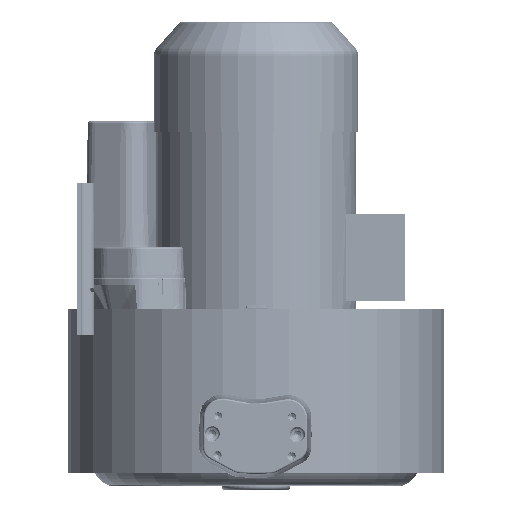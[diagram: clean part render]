
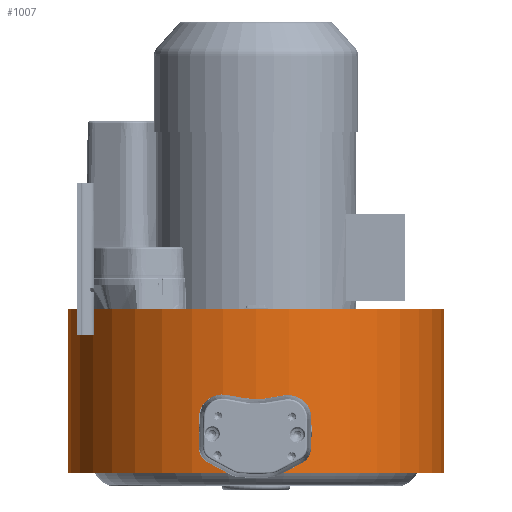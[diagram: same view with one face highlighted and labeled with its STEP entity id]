
A CAD part, left-side view. The second image highlights one B-rep face of the part: STEP entity #1007.
In plain terms, the highlighted cylindrical face has radius 161 mm (diameter 322 mm), a partial arc.
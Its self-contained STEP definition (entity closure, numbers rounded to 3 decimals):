
#214=CARTESIAN_POINT('',(0.,0.,-81.55));
#215=DIRECTION('',(0.,0.,-1.));
#216=DIRECTION('',(0.,-1.,0.));
#217=AXIS2_PLACEMENT_3D('',#214,#215,#216);
#219=DIRECTION('',(0.,0.,-1.));
#220=VECTOR('',#219,140.);
#221=CARTESIAN_POINT('',(0.,-161.,58.45));
#222=LINE('',#221,#220);
#228=DIRECTION('',(0.,0.,-1.));
#229=VECTOR('',#228,140.);
#230=CARTESIAN_POINT('',(0.,161.,
58.45));
#231=LINE('',#230,#229);
#232=CARTESIAN_POINT('',(0.,0.,58.45));
#233=DIRECTION('',(0.,0.,-1.));
#234=DIRECTION('',(0.,-1.,0.));
#235=AXIS2_PLACEMENT_3D('',#232,#233,#234);
#554=CARTESIAN_POINT('',(0.,-161.,58.45));
#555=CARTESIAN_POINT('',(0.,-161.,-81.55));
#556=VERTEX_POINT('',#554);
#557=VERTEX_POINT('',#555);
#572=CARTESIAN_POINT('',(0.,161.,
58.45));
#573=CARTESIAN_POINT('',(0.,161.,
-81.55));
#574=VERTEX_POINT('',#572);
#575=VERTEX_POINT('',#573);
#995=CARTESIAN_POINT('',(0.,0.,324.763));
#996=DIRECTION('',(0.,0.,-1.));
#997=DIRECTION('',(0.,-1.,0.));
#998=AXIS2_PLACEMENT_3D('',#995,#996,#997);
#999=CYLINDRICAL_SURFACE('',#998,161.);
#1000=ORIENTED_EDGE('',*,*,#985,.T.);
#1001=ORIENTED_EDGE('',*,*,#971,.T.);
#1002=ORIENTED_EDGE('',*,*,#989,.F.);
#1004=ORIENTED_EDGE('',*,*,#1003,.F.);
#1005=EDGE_LOOP('',(#1000,#1001,#1002,#1004));
#1006=FACE_OUTER_BOUND('',#1005,.F.);
#218=CIRCLE('',#217,161.);
#236=CIRCLE('',#235,161.);
#971=EDGE_CURVE('',#557,#575,#218,.T.);
#985=EDGE_CURVE('',#556,#557,#222,.T.);
#989=EDGE_CURVE('',#574,#575,#231,.T.);
#1003=EDGE_CURVE('',#556,#574,#236,.T.);
#1007=ADVANCED_FACE('',(#1006),#999,.T.);
